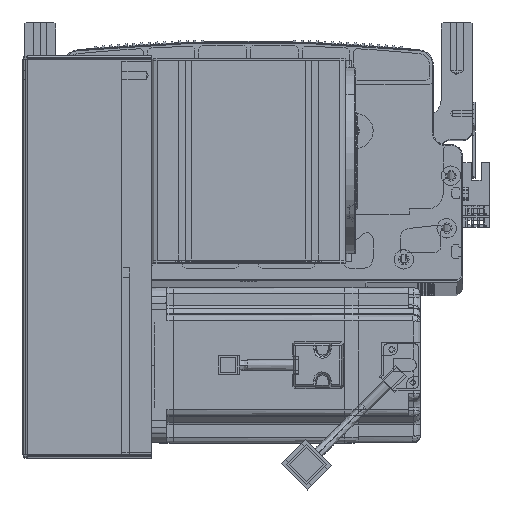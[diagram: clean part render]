
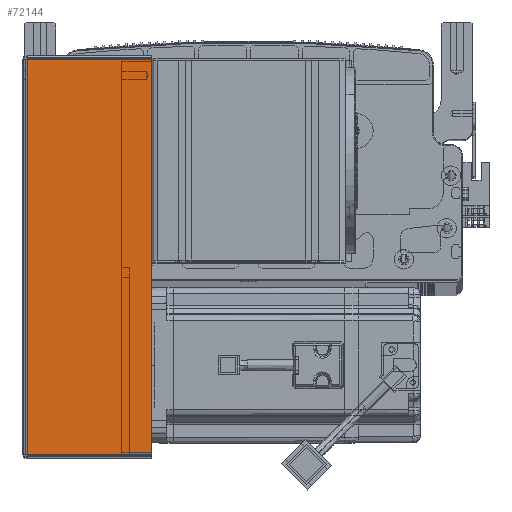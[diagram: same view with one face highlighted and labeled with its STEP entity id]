
A CAD part, top view. The second image highlights one B-rep face of the part: STEP entity #72144.
In plain terms, the highlighted planar face has unit normal (0, 0, 1) as drawn and (0, -1, 0) by its records, which use the part's own axes.
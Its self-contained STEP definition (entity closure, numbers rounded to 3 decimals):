
#5761 = VECTOR ( 'NONE', #55181, 1000. ) ;
#7141 = VECTOR ( 'NONE', #33389, 1000. ) ;
#11725 = DIRECTION ( 'NONE',  ( 0., 1., 0. ) ) ;
#12182 = LINE ( 'NONE', #103385, #7141 ) ;
#13716 = EDGE_CURVE ( 'NONE', #61124, #88016, #90498, .T. ) ;
#15476 = VECTOR ( 'NONE', #60468, 1000. ) ;
#17590 = LINE ( 'NONE', #32117, #32802 ) ;
#17671 = VERTEX_POINT ( 'NONE', #62227 ) ;
#27559 = EDGE_CURVE ( 'NONE', #75735, #88016, #12182, .T. ) ;
#28582 = ORIENTED_EDGE ( 'NONE', *, *, #27559, .T. ) ;
#30065 = EDGE_LOOP ( 'NONE', ( #40009, #86576, #28582, #60576 ) ) ;
#30713 = AXIS2_PLACEMENT_3D ( 'NONE', #85222, #11725, #77097 ) ;
#32117 = CARTESIAN_POINT ( 'NONE',  ( 0., -1.5, -203.293 ) ) ;
#32148 = CARTESIAN_POINT ( 'NONE',  ( 64.5, -1.5, -203.293 ) ) ;
#32802 = VECTOR ( 'NONE', #88648, 1000. ) ;
#33389 = DIRECTION ( 'NONE',  ( 0., 0., 1. ) ) ;
#40009 = ORIENTED_EDGE ( 'NONE', *, *, #53316, .F. ) ;
#53316 = EDGE_CURVE ( 'NONE', #17671, #61124, #104443, .T. ) ;
#53397 = CARTESIAN_POINT ( 'NONE',  ( 0., -1.5, -0.707 ) ) ;
#55181 = DIRECTION ( 'NONE',  ( 0., 0., 1. ) ) ;
#60468 = DIRECTION ( 'NONE',  ( 1., 0., 0. ) ) ;
#60576 = ORIENTED_EDGE ( 'NONE', *, *, #13716, .F. ) ;
#61124 = VERTEX_POINT ( 'NONE', #99256 ) ;
#62227 = CARTESIAN_POINT ( 'NONE',  ( 0.737, -1.5, -203.293 ) ) ;
#70408 = CARTESIAN_POINT ( 'NONE',  ( 0.737, -1.5, 0. ) ) ;
#72144 = ADVANCED_FACE ( 'NONE', ( #85205 ), #75719, .F. ) ;
#75719 = PLANE ( 'NONE',  #30713 ) ;
#75735 = VERTEX_POINT ( 'NONE', #32148 ) ;
#77097 = DIRECTION ( 'NONE',  ( -1., 0., 0. ) ) ;
#85205 = FACE_OUTER_BOUND ( 'NONE', #30065, .T. ) ;
#85222 = CARTESIAN_POINT ( 'NONE',  ( 0., -1.5, 0. ) ) ;
#86576 = ORIENTED_EDGE ( 'NONE', *, *, #90978, .T. ) ;
#88016 = VERTEX_POINT ( 'NONE', #99641 ) ;
#88648 = DIRECTION ( 'NONE',  ( 1., 0., 0. ) ) ;
#90498 = LINE ( 'NONE', #53397, #15476 ) ;
#90978 = EDGE_CURVE ( 'NONE', #17671, #75735, #17590, .T. ) ;
#99256 = CARTESIAN_POINT ( 'NONE',  ( 0.737, -1.5, -0.707 ) ) ;
#99641 = CARTESIAN_POINT ( 'NONE',  ( 64.5, -1.5, -0.707 ) ) ;
#103385 = CARTESIAN_POINT ( 'NONE',  ( 64.5, -1.5, 0. ) ) ;
#104443 = LINE ( 'NONE', #70408, #5761 ) ;
